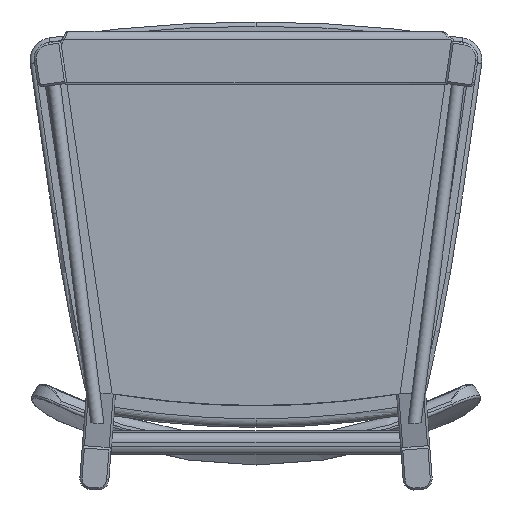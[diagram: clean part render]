
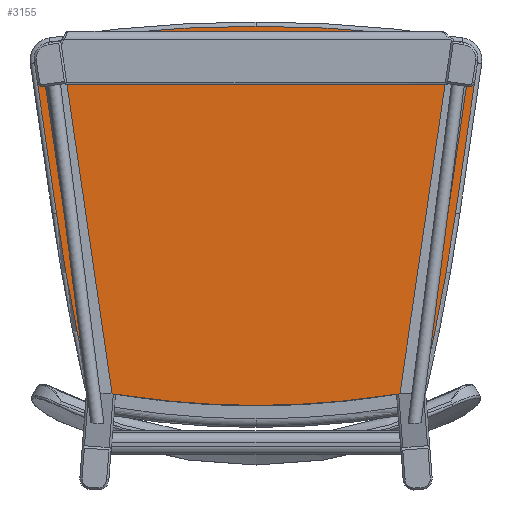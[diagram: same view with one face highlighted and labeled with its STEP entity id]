
A CAD part, front view. The second image highlights one B-rep face of the part: STEP entity #3155.
In plain terms, the highlighted planar face has unit normal (0, -1, 0).
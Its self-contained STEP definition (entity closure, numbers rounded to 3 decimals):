
#58 = ORIENTED_EDGE ( 'NONE', *, *, #7024, .F. ) ;
#68 = CARTESIAN_POINT ( 'NONE',  ( 185.64, 660., -170.914 ) ) ;
#71 = DIRECTION ( 'NONE',  ( 0., 0., 1. ) ) ;
#182 = AXIS2_PLACEMENT_3D ( 'NONE', #3775, #9734, #7215 ) ;
#229 = CIRCLE ( 'NONE', #8065, 799.5 ) ;
#467 = DIRECTION ( 'NONE',  ( 0., -1., 0. ) ) ;
#496 = VERTEX_POINT ( 'NONE', #9081 ) ;
#614 = AXIS2_PLACEMENT_3D ( 'NONE', #4485, #6978, #7822 ) ;
#638 = ORIENTED_EDGE ( 'NONE', *, *, #4767, .F. ) ;
#876 = VECTOR ( 'NONE', #3089, 1000. ) ;
#1077 = VERTEX_POINT ( 'NONE', #10279 ) ;
#1135 = VERTEX_POINT ( 'NONE', #10678 ) ;
#1228 = VERTEX_POINT ( 'NONE', #6340 ) ;
#1386 = ORIENTED_EDGE ( 'NONE', *, *, #10971, .T. ) ;
#1409 = DIRECTION ( 'NONE',  ( 0., 0., 1. ) ) ;
#1860 = CIRCLE ( 'NONE', #8438, 17. ) ;
#1873 = AXIS2_PLACEMENT_3D ( 'NONE', #4918, #467, #7534 ) ;
#1911 = PLANE ( 'NONE',  #4656 ) ;
#2131 = VERTEX_POINT ( 'NONE', #3915 ) ;
#2134 = CARTESIAN_POINT ( 'NONE',  ( -149.84, 660., -337.265 ) ) ;
#2183 = EDGE_CURVE ( 'NONE', #496, #1135, #9749, .T. ) ;
#2250 = CIRCLE ( 'NONE', #614, 1997. ) ;
#2313 = EDGE_CURVE ( 'NONE', #6374, #11065, #8589, .T. ) ;
#2362 = DIRECTION ( 'NONE',  ( 0., 1., 0. ) ) ;
#2364 = ORIENTED_EDGE ( 'NONE', *, *, #6468, .T. ) ;
#2418 = DIRECTION ( 'NONE',  ( 0., -1., 0. ) ) ;
#2617 = ORIENTED_EDGE ( 'NONE', *, *, #2313, .F. ) ;
#2668 = EDGE_CURVE ( 'NONE', #5675, #2131, #2987, .T. ) ;
#2693 = CIRCLE ( 'NONE', #182, 1259. ) ;
#2764 = VECTOR ( 'NONE', #6176, 1000. ) ;
#2806 = AXIS2_PLACEMENT_3D ( 'NONE', #8318, #5748, #1409 ) ;
#2896 = AXIS2_PLACEMENT_3D ( 'NONE', #4955, #3444, #3220 ) ;
#2909 = DIRECTION ( 'NONE',  ( 0., 0., 1. ) ) ;
#2930 = VERTEX_POINT ( 'NONE', #9529 ) ;
#2987 = CIRCLE ( 'NONE', #11018, 17. ) ;
#3007 = CARTESIAN_POINT ( 'NONE',  ( 206.066, 660., -30.735 ) ) ;
#3089 = DIRECTION ( 'NONE',  ( -0.997, 0., -0.077 ) ) ;
#3155 = ADVANCED_FACE ( 'NONE', ( #8944 ), #1911, .F. ) ;
#3157 = CARTESIAN_POINT ( 'NONE',  ( -149.84, 660., -337.265 ) ) ;
#3220 = DIRECTION ( 'NONE',  ( 0., 0., 1. ) ) ;
#3269 = DIRECTION ( 'NONE',  ( 0., 0., 1. ) ) ;
#3376 = EDGE_CURVE ( 'NONE', #2930, #496, #9906, .T. ) ;
#3444 = DIRECTION ( 'NONE',  ( 0., 1., 0. ) ) ;
#3663 = ORIENTED_EDGE ( 'NONE', *, *, #2183, .F. ) ;
#3763 = CARTESIAN_POINT ( 'NONE',  ( 189.243, 660., -28.284 ) ) ;
#3775 = CARTESIAN_POINT ( 'NONE',  ( 0., 660., -1255.782 ) ) ;
#3812 = CIRCLE ( 'NONE', #2896, 799.5 ) ;
#3824 = LINE ( 'NONE', #10507, #2764 ) ;
#3848 = CIRCLE ( 'NONE', #10058, 1259. ) ;
#3915 = CARTESIAN_POINT ( 'NONE',  ( 191.834, 660., -11.482 ) ) ;
#4001 = ORIENTED_EDGE ( 'NONE', *, *, #10119, .F. ) ;
#4081 = DIRECTION ( 'NONE',  ( -0.997, 0., 0.077 ) ) ;
#4085 = DIRECTION ( 'NONE',  ( 0., 0., 1. ) ) ;
#4390 = ORIENTED_EDGE ( 'NONE', *, *, #10043, .T. ) ;
#4459 = CARTESIAN_POINT ( 'NONE',  ( -191.834, 660., -11.482 ) ) ;
#4485 = CARTESIAN_POINT ( 'NONE',  ( 1790.491, 660., 117.034 ) ) ;
#4656 = AXIS2_PLACEMENT_3D ( 'NONE', #5391, #7893, #71 ) ;
#4767 = EDGE_CURVE ( 'NONE', #7265, #1228, #3812, .T. ) ;
#4826 = ORIENTED_EDGE ( 'NONE', *, *, #10886, .T. ) ;
#4918 = CARTESIAN_POINT ( 'NONE',  ( -188.208, 660., -834.788 ) ) ;
#4955 = CARTESIAN_POINT ( 'NONE',  ( 0., 660., 450. ) ) ;
#4997 = CARTESIAN_POINT ( 'NONE',  ( 0., 660., -1255.782 ) ) ;
#5060 = EDGE_CURVE ( 'NONE', #6255, #5675, #6581, .T. ) ;
#5150 = DIRECTION ( 'NONE',  ( 0.144, 0., 0.99 ) ) ;
#5153 = DIRECTION ( 'NONE',  ( 0., -1., 0. ) ) ;
#5391 = CARTESIAN_POINT ( 'NONE',  ( -189.243, 660., -28.284 ) ) ;
#5515 = CIRCLE ( 'NONE', #1873, 499. ) ;
#5675 = VERTEX_POINT ( 'NONE', #3007 ) ;
#5748 = DIRECTION ( 'NONE',  ( 0., -1., 0. ) ) ;
#6176 = DIRECTION ( 'NONE',  ( 0.144, 0., -0.99 ) ) ;
#6255 = VERTEX_POINT ( 'NONE', #68 ) ;
#6259 = CIRCLE ( 'NONE', #6799, 1997. ) ;
#6340 = CARTESIAN_POINT ( 'NONE',  ( -115.882, 660., -341.057 ) ) ;
#6374 = VERTEX_POINT ( 'NONE', #2134 ) ;
#6414 = EDGE_LOOP ( 'NONE', ( #9588, #1386, #2617, #58, #638, #4001, #3663, #8430, #4826, #10900, #9814, #2364, #10525, #4390 ) ) ;
#6468 = EDGE_CURVE ( 'NONE', #2131, #7791, #2693, .T. ) ;
#6547 = DIRECTION ( 'NONE',  ( 0., 0., 1. ) ) ;
#6581 = LINE ( 'NONE', #7030, #11289 ) ;
#6799 = AXIS2_PLACEMENT_3D ( 'NONE', #7509, #10998, #6547 ) ;
#6895 = EDGE_CURVE ( 'NONE', #1077, #11283, #3824, .T. ) ;
#6978 = DIRECTION ( 'NONE',  ( 0., -1., 0. ) ) ;
#7024 = EDGE_CURVE ( 'NONE', #1228, #6374, #5515, .T. ) ;
#7030 = CARTESIAN_POINT ( 'NONE',  ( 198.197, 660., -84.739 ) ) ;
#7215 = DIRECTION ( 'NONE',  ( 0., 0., 1. ) ) ;
#7265 = VERTEX_POINT ( 'NONE', #8099 ) ;
#7411 = VERTEX_POINT ( 'NONE', #4459 ) ;
#7509 = CARTESIAN_POINT ( 'NONE',  ( -1790.491, 660., 117.034 ) ) ;
#7534 = DIRECTION ( 'NONE',  ( 0., 0., 1. ) ) ;
#7710 = DIRECTION ( 'NONE',  ( 0., 0., 1. ) ) ;
#7791 = VERTEX_POINT ( 'NONE', #8210 ) ;
#7822 = DIRECTION ( 'NONE',  ( 0., 0., 1. ) ) ;
#7893 = DIRECTION ( 'NONE',  ( 0., 1., 0. ) ) ;
#8065 = AXIS2_PLACEMENT_3D ( 'NONE', #10191, #2362, #4085 ) ;
#8099 = CARTESIAN_POINT ( 'NONE',  ( 0., 660., -349.5 ) ) ;
#8142 = EDGE_CURVE ( 'NONE', #7791, #7411, #3848, .T. ) ;
#8210 = CARTESIAN_POINT ( 'NONE',  ( 0., 660., 3.218 ) ) ;
#8318 = CARTESIAN_POINT ( 'NONE',  ( 188.208, 660., -834.788 ) ) ;
#8430 = ORIENTED_EDGE ( 'NONE', *, *, #3376, .F. ) ;
#8438 = AXIS2_PLACEMENT_3D ( 'NONE', #11050, #2418, #3269 ) ;
#8589 = LINE ( 'NONE', #3157, #10289 ) ;
#8944 = FACE_OUTER_BOUND ( 'NONE', #6414, .T. ) ;
#9081 = CARTESIAN_POINT ( 'NONE',  ( 149.84, 660., -337.265 ) ) ;
#9529 = CARTESIAN_POINT ( 'NONE',  ( 154.227, 660., -336.927 ) ) ;
#9588 = ORIENTED_EDGE ( 'NONE', *, *, #6895, .T. ) ;
#9734 = DIRECTION ( 'NONE',  ( 0., -1., 0. ) ) ;
#9749 = CIRCLE ( 'NONE', #2806, 499. ) ;
#9814 = ORIENTED_EDGE ( 'NONE', *, *, #2668, .T. ) ;
#9851 = CARTESIAN_POINT ( 'NONE',  ( 158.409, 660., -336.604 ) ) ;
#9906 = LINE ( 'NONE', #9851, #876 ) ;
#10043 = EDGE_CURVE ( 'NONE', #7411, #1077, #1860, .T. ) ;
#10058 = AXIS2_PLACEMENT_3D ( 'NONE', #4997, #5153, #7710 ) ;
#10119 = EDGE_CURVE ( 'NONE', #1135, #7265, #229, .T. ) ;
#10191 = CARTESIAN_POINT ( 'NONE',  ( 0., 660., 450. ) ) ;
#10279 = CARTESIAN_POINT ( 'NONE',  ( -206.066, 660., -30.735 ) ) ;
#10289 = VECTOR ( 'NONE', #4081, 1000. ) ;
#10507 = CARTESIAN_POINT ( 'NONE',  ( -206.066, 660., -30.735 ) ) ;
#10525 = ORIENTED_EDGE ( 'NONE', *, *, #8142, .T. ) ;
#10678 = CARTESIAN_POINT ( 'NONE',  ( 115.882, 660., -341.057 ) ) ;
#10681 = CARTESIAN_POINT ( 'NONE',  ( -154.227, 660., -336.927 ) ) ;
#10741 = DIRECTION ( 'NONE',  ( 0., -1., 0. ) ) ;
#10886 = EDGE_CURVE ( 'NONE', #2930, #6255, #6259, .T. ) ;
#10900 = ORIENTED_EDGE ( 'NONE', *, *, #5060, .T. ) ;
#10971 = EDGE_CURVE ( 'NONE', #11283, #11065, #2250, .T. ) ;
#10998 = DIRECTION ( 'NONE',  ( 0., -1., 0. ) ) ;
#11018 = AXIS2_PLACEMENT_3D ( 'NONE', #3763, #10741, #2909 ) ;
#11041 = CARTESIAN_POINT ( 'NONE',  ( -185.64, 660., -170.914 ) ) ;
#11050 = CARTESIAN_POINT ( 'NONE',  ( -189.243, 660., -28.284 ) ) ;
#11065 = VERTEX_POINT ( 'NONE', #10681 ) ;
#11283 = VERTEX_POINT ( 'NONE', #11041 ) ;
#11289 = VECTOR ( 'NONE', #5150, 1000. ) ;
